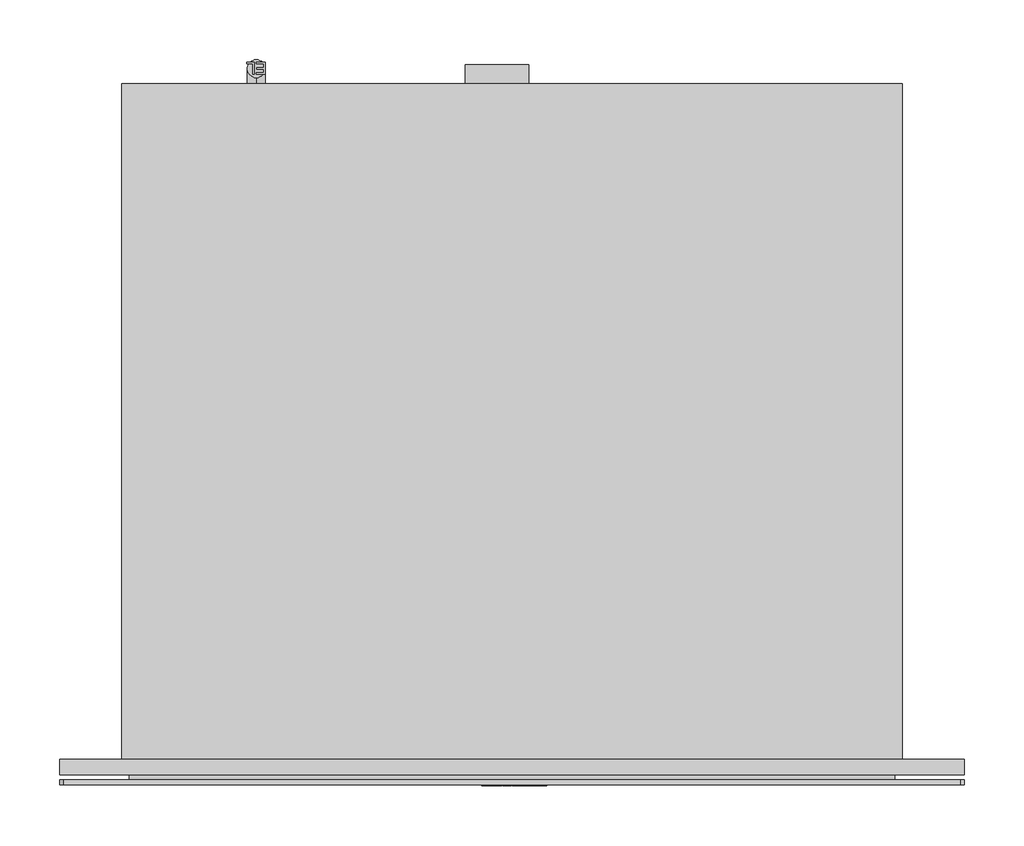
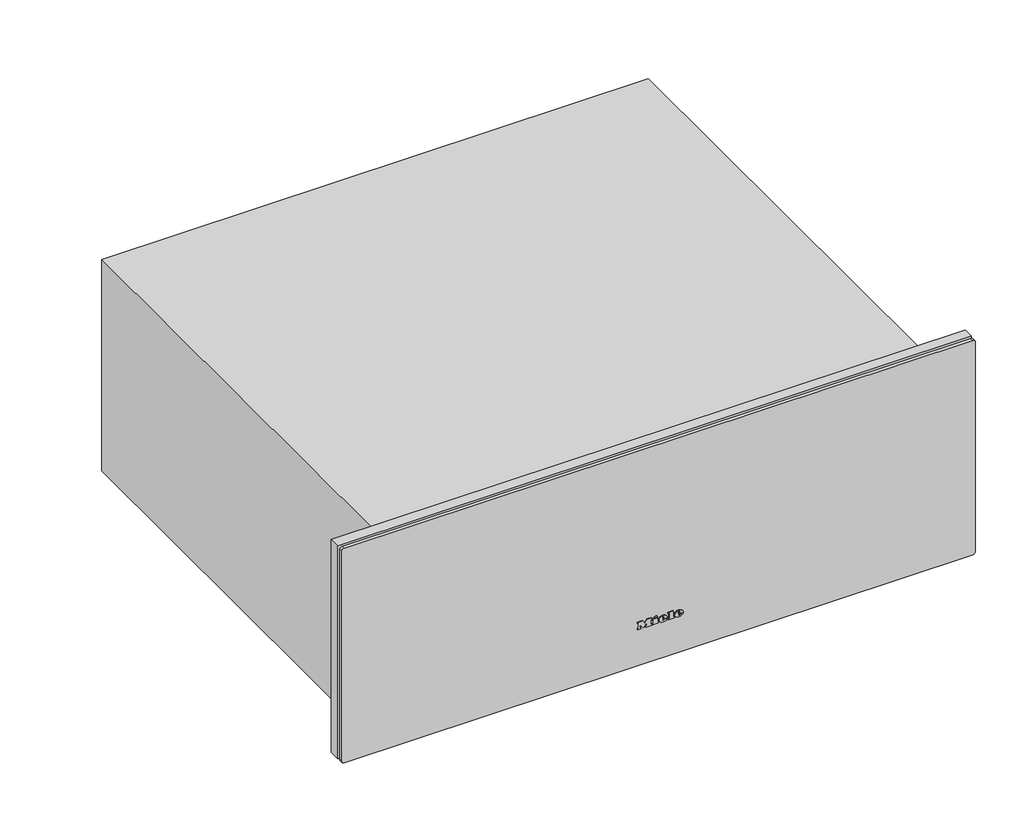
# Not in any storey: 1 proxy.
"""IFC4 building model written with IfcOpenShell, lengths in millimetres."""

from ifc_helpers import new_model, si_unit, origin, place, context, project, spatial, transform, mapped, element, save
from components import specialty_equipment_8b60e592

model = new_model("IFC4")

# Units and contexts
model_context = context("Model", 3, world=origin())
ifc_project = project(units=[si_unit("LENGTHUNIT", "METRE", prefix="MILLI")], contexts=[model_context])

# Site, building
site = spatial("IfcSite", under=ifc_project)
building = spatial("IfcBuilding", under=site)

# Proxy
placement = place(None, origin())
specialty_equipment_shape = specialty_equipment_8b60e592(model_context)
element("IfcBuildingElementProxy", 1, Name="11788760_BR_ESW7680_GRGR : 30768030_BR_11788760_ESW7680_GRGR", ObjectType="11788760_BR_ESW7680_GRGR : 30768030_BR_11788760_ESW7680_GRGR", at=placement, inside=building, context=model_context, shape_type="MappedRepresentation", body=[
    mapped(specialty_equipment_shape, transform((0.0, 0.0, 0.0), x_axis=(1.0, 0.0, 0.0), y_axis=(0.0, 1.0, 0.0), z_axis=(0.0, 0.0, 1.0))),
])

save(model, "model.ifc")
